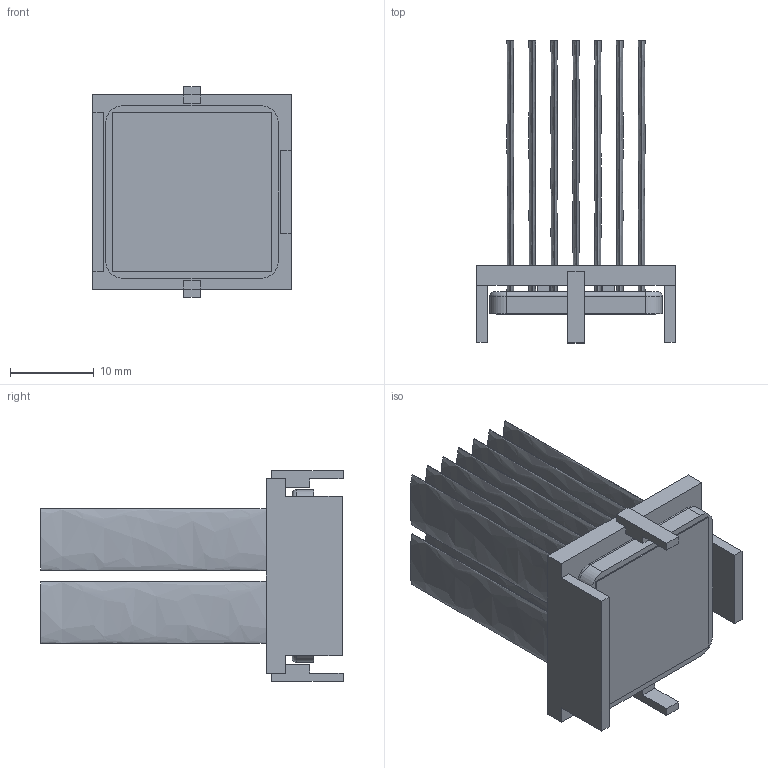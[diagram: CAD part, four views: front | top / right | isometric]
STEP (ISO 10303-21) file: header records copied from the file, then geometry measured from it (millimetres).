
FILE_DESCRIPTION (( 'STEP AP214' ), '1' );
FILE_NAME ('INM21001-33W-2.6Y.STEP', '2023-03-02T21:18:20', ( '' ), ( '' ), 'SwSTEP 2.0', 'SolidWorks 2020', '' );
FILE_SCHEMA (( 'AUTOMOTIVE_DESIGN' ));
Length unit declared in the file: millimetre
Products named in the file (1): INM21001-33W-2.6Y
Bounding box: 23.7 x 36.1 x 25.2 mm (x, y, z)
Volume: 4100.3 mm3; surface area: 9736.1 mm2
Topology: 3 solids, 3 shells, 124 faces, 304 edges, 200 vertices
Faces by surface type: plane 84, bspline 28, cylinder 8, torus 4
Entity records: 5088 total; most frequent: CARTESIAN_POINT 993, ORIENTED_EDGE 608, DIRECTION 462, EDGE_CURVE 304, LINE 228, VECTOR 228, VERTEX_POINT 200, EDGE_LOOP 140
